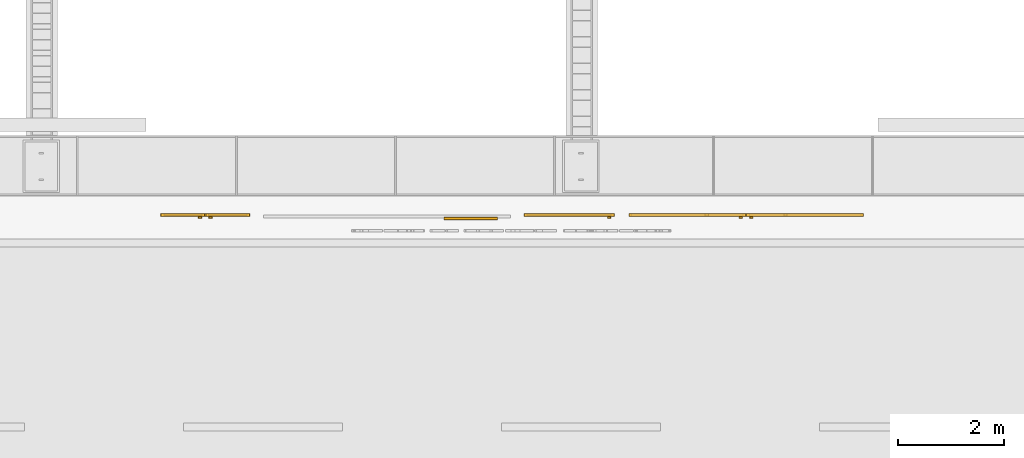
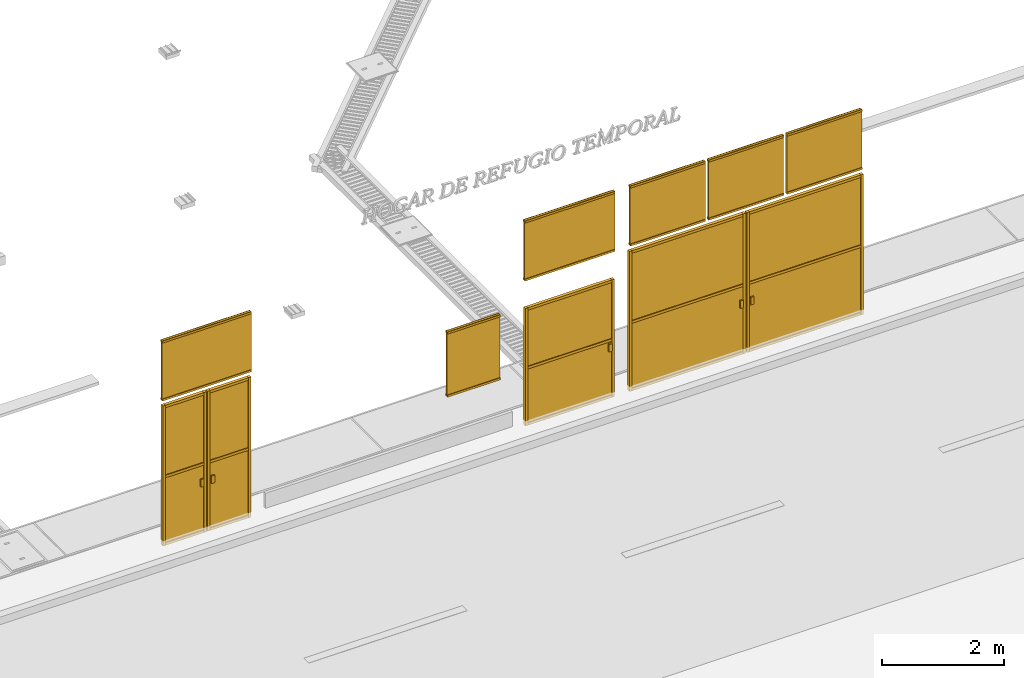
# One storey, part 26 of 90: 35 doors, 18 windows.
"""IFC2X3 building model written with IfcOpenShell, lengths in metres."""

from ifc_helpers import new_model, si_unit, origin, origin_with_axes, place, context, subcontext, project, spatial, faceted_brep, element, save


model = new_model("IFC2X3")

# Units and contexts
model_context = context("Model", 3, precision=1e-05, world=origin_with_axes())
body_context = subcontext(model_context, "Body", "Model", "MODEL_VIEW")
ifc_project = project(units=[si_unit("LENGTHUNIT", "METRE"), si_unit("AREAUNIT", "SQUARE_METRE"), si_unit("VOLUMEUNIT", "CUBIC_METRE"), si_unit("PLANEANGLEUNIT", "RADIAN")], contexts=[model_context])

# Site, building, storey
site_placement = place(None, origin_with_axes())
site = spatial("IfcSite", under=ifc_project, at=site_placement, Name="Predio Los Mangos - Morales, San Martín", CompositionType="ELEMENT")
building_placement = place(site_placement, origin())
building = spatial("IfcBuilding", under=site, at=building_placement, Name="Hogar de Refugio Temporal", CompositionType="ELEMENT")
storey_placement = place(building_placement, origin())
storey = spatial("IfcBuildingStorey", under=building, at=storey_placement, Name="NIVEL 1 (NPT +0.00)", CompositionType="ELEMENT", Elevation=0.0)

# Doors
door_1_placement = place(storey_placement, origin())
element("IfcDoor", 1, at=door_1_placement, inside=storey, Name="oe01_porton_peatonal_plancha", ObjectType="Puerta / portón", context=body_context, shape_type="Brep", body=[
    faceted_brep([(31.621, 16.285, 0.09), (31.621, 16.315, 0.09), (32.364, 16.315, 0.09), (32.364, 16.285, 0.09), (31.621, 16.285, 2.81), (32.364, 16.285, 2.81), (32.364, 16.315, 2.81), (31.621, 16.315, 2.81)], [[[0, 1, 2, 3]], [[4, 5, 6, 7]], [[0, 3, 5, 4]], [[3, 2, 6, 5]], [[2, 1, 7, 6]], [[1, 0, 4, 7]]]),
])
door_2_placement = place(storey_placement, origin())
element("IfcDoor", 2, at=door_2_placement, inside=storey, Name="oe01_porton_peatonal_m", ObjectType="Puerta / portón", context=body_context, shape_type="Brep", body=[
    faceted_brep([(31.581, 16.27, 0.05), (31.581, 16.33, 0.05), (32.404, 16.33, 0.05), (32.404, 16.27, 0.05), (31.581, 16.27, 0.1), (32.404, 16.27, 0.1), (32.404, 16.33, 0.1), (31.581, 16.33, 0.1)], [[[0, 1, 2, 3]], [[4, 5, 6, 7]], [[0, 3, 5, 4]], [[3, 2, 6, 5]], [[2, 1, 7, 6]], [[1, 0, 4, 7]]]),
])
door_3_placement = place(storey_placement, origin())
element("IfcDoor", 3, at=door_3_placement, inside=storey, Name="oe01_porton_peatonal_m", ObjectType="Puerta / portón", context=body_context, shape_type="Brep", body=[
    faceted_brep([(31.581, 16.27, 2.8), (31.581, 16.33, 2.8), (32.404, 16.33, 2.8), (32.404, 16.27, 2.8), (31.581, 16.27, 2.85), (32.404, 16.27, 2.85), (32.404, 16.33, 2.85), (31.581, 16.33, 2.85)], [[[0, 1, 2, 3]], [[4, 5, 6, 7]], [[0, 3, 5, 4]], [[3, 2, 6, 5]], [[2, 1, 7, 6]], [[1, 0, 4, 7]]]),
])
door_4_placement = place(storey_placement, origin())
element("IfcDoor", 4, at=door_4_placement, inside=storey, Name="oe01_porton_peatonal_m", ObjectType="Puerta / portón", context=body_context, shape_type="Brep", body=[
    faceted_brep([(31.581, 16.27, 0.05), (31.581, 16.33, 0.05), (31.631, 16.33, 0.05), (31.631, 16.27, 0.05), (31.581, 16.27, 2.85), (31.631, 16.27, 2.85), (31.631, 16.33, 2.85), (31.581, 16.33, 2.85)], [[[0, 1, 2, 3]], [[4, 5, 6, 7]], [[0, 3, 5, 4]], [[3, 2, 6, 5]], [[2, 1, 7, 6]], [[1, 0, 4, 7]]]),
])
door_5_placement = place(storey_placement, origin())
element("IfcDoor", 5, at=door_5_placement, inside=storey, Name="oe01_porton_peatonal_m", ObjectType="Puerta / portón", context=body_context, shape_type="Brep", body=[
    faceted_brep([(32.354, 16.27, 0.05), (32.354, 16.33, 0.05), (32.404, 16.33, 0.05), (32.404, 16.27, 0.05), (32.354, 16.27, 2.85), (32.404, 16.27, 2.85), (32.404, 16.33, 2.85), (32.354, 16.33, 2.85)], [[[0, 1, 2, 3]], [[4, 5, 6, 7]], [[0, 3, 5, 4]], [[3, 2, 6, 5]], [[2, 1, 7, 6]], [[1, 0, 4, 7]]]),
])
door_6_placement = place(storey_placement, origin())
element("IfcDoor", 6, at=door_6_placement, inside=storey, Name="oe01_porton_peatonal_m", ObjectType="Puerta / portón", context=body_context, shape_type="Brep", body=[
    faceted_brep([(31.581, 16.27, 1.4), (31.581, 16.33, 1.4), (32.404, 16.33, 1.4), (32.404, 16.27, 1.4), (31.581, 16.27, 1.45), (32.404, 16.27, 1.45), (32.404, 16.33, 1.45), (31.581, 16.33, 1.45)], [[[0, 1, 2, 3]], [[4, 5, 6, 7]], [[0, 3, 5, 4]], [[3, 2, 6, 5]], [[2, 1, 7, 6]], [[1, 0, 4, 7]]]),
])
door_7_placement = place(storey_placement, origin())
element("IfcDoor", 7, at=door_7_placement, inside=storey, Name="oe01_porton_peatonal_manija", ObjectType="Puerta / portón", context=body_context, shape_type="Brep", body=[
    faceted_brep([(32.284, 16.24, 1.0), (32.284, 16.27, 1.0), (32.344, 16.27, 1.0), (32.344, 16.24, 1.0), (32.284, 16.24, 1.15), (32.344, 16.24, 1.15), (32.344, 16.27, 1.15), (32.284, 16.27, 1.15)], [[[0, 1, 2, 3]], [[4, 5, 6, 7]], [[0, 3, 5, 4]], [[3, 2, 6, 5]], [[2, 1, 7, 6]], [[1, 0, 4, 7]]]),
])
door_8_placement = place(storey_placement, origin())
element("IfcDoor", 8, at=door_8_placement, inside=storey, Name="oe01_porton_peatonal_plancha", ObjectType="Puerta / portón", context=body_context, shape_type="Brep", body=[
    faceted_brep([(32.464, 16.285, 0.09), (32.464, 16.315, 0.09), (33.2071, 16.315, 0.09), (33.2071, 16.285, 0.09), (32.464, 16.285, 2.81), (33.2071, 16.285, 2.81), (33.2071, 16.315, 2.81), (32.464, 16.315, 2.81)], [[[0, 1, 2, 3]], [[4, 5, 6, 7]], [[0, 3, 5, 4]], [[3, 2, 6, 5]], [[2, 1, 7, 6]], [[1, 0, 4, 7]]]),
])
door_9_placement = place(storey_placement, origin())
element("IfcDoor", 9, at=door_9_placement, inside=storey, Name="oe01_porton_peatonal_m", ObjectType="Puerta / portón", context=body_context, shape_type="Brep", body=[
    faceted_brep([(32.424, 16.27, 0.05), (32.424, 16.33, 0.05), (33.2471, 16.33, 0.05), (33.2471, 16.27, 0.05), (32.424, 16.27, 0.1), (33.2471, 16.27, 0.1), (33.2471, 16.33, 0.1), (32.424, 16.33, 0.1)], [[[0, 1, 2, 3]], [[4, 5, 6, 7]], [[0, 3, 5, 4]], [[3, 2, 6, 5]], [[2, 1, 7, 6]], [[1, 0, 4, 7]]]),
])
door_10_placement = place(storey_placement, origin())
element("IfcDoor", 10, at=door_10_placement, inside=storey, Name="oe01_porton_peatonal_m", ObjectType="Puerta / portón", context=body_context, shape_type="Brep", body=[
    faceted_brep([(32.424, 16.27, 2.8), (32.424, 16.33, 2.8), (33.2471, 16.33, 2.8), (33.2471, 16.27, 2.8), (32.424, 16.27, 2.85), (33.2471, 16.27, 2.85), (33.2471, 16.33, 2.85), (32.424, 16.33, 2.85)], [[[0, 1, 2, 3]], [[4, 5, 6, 7]], [[0, 3, 5, 4]], [[3, 2, 6, 5]], [[2, 1, 7, 6]], [[1, 0, 4, 7]]]),
])
door_11_placement = place(storey_placement, origin())
element("IfcDoor", 11, at=door_11_placement, inside=storey, Name="oe01_porton_peatonal_m", ObjectType="Puerta / portón", context=body_context, shape_type="Brep", body=[
    faceted_brep([(32.424, 16.27, 0.05), (32.424, 16.33, 0.05), (32.474, 16.33, 0.05), (32.474, 16.27, 0.05), (32.424, 16.27, 2.85), (32.474, 16.27, 2.85), (32.474, 16.33, 2.85), (32.424, 16.33, 2.85)], [[[0, 1, 2, 3]], [[4, 5, 6, 7]], [[0, 3, 5, 4]], [[3, 2, 6, 5]], [[2, 1, 7, 6]], [[1, 0, 4, 7]]]),
])
door_12_placement = place(storey_placement, origin())
element("IfcDoor", 12, at=door_12_placement, inside=storey, Name="oe01_porton_peatonal_m", ObjectType="Puerta / portón", context=body_context, shape_type="Brep", body=[
    faceted_brep([(33.1971, 16.27, 0.05), (33.1971, 16.33, 0.05), (33.2471, 16.33, 0.05), (33.2471, 16.27, 0.05), (33.1971, 16.27, 2.85), (33.2471, 16.27, 2.85), (33.2471, 16.33, 2.85), (33.1971, 16.33, 2.85)], [[[0, 1, 2, 3]], [[4, 5, 6, 7]], [[0, 3, 5, 4]], [[3, 2, 6, 5]], [[2, 1, 7, 6]], [[1, 0, 4, 7]]]),
])
door_13_placement = place(storey_placement, origin())
element("IfcDoor", 13, at=door_13_placement, inside=storey, Name="oe01_porton_peatonal_m", ObjectType="Puerta / portón", context=body_context, shape_type="Brep", body=[
    faceted_brep([(32.424, 16.27, 1.4), (32.424, 16.33, 1.4), (33.2471, 16.33, 1.4), (33.2471, 16.27, 1.4), (32.424, 16.27, 1.45), (33.2471, 16.27, 1.45), (33.2471, 16.33, 1.45), (32.424, 16.33, 1.45)], [[[0, 1, 2, 3]], [[4, 5, 6, 7]], [[0, 3, 5, 4]], [[3, 2, 6, 5]], [[2, 1, 7, 6]], [[1, 0, 4, 7]]]),
])
door_14_placement = place(storey_placement, origin())
element("IfcDoor", 14, at=door_14_placement, inside=storey, Name="oe01_porton_peatonal_manija", ObjectType="Puerta / portón", context=body_context, shape_type="Brep", body=[
    faceted_brep([(32.484, 16.24, 1.0), (32.484, 16.27, 1.0), (32.544, 16.27, 1.0), (32.544, 16.24, 1.0), (32.484, 16.24, 1.15), (32.544, 16.24, 1.15), (32.544, 16.27, 1.15), (32.484, 16.27, 1.15)], [[[0, 1, 2, 3]], [[4, 5, 6, 7]], [[0, 3, 5, 4]], [[3, 2, 6, 5]], [[2, 1, 7, 6]], [[1, 0, 4, 7]]]),
])

# Windows
window_1_placement = place(storey_placement, origin())
element("IfcWindow", 15, at=window_1_placement, inside=storey, Name="oe01_celosia1", ObjectType="Ventana / paño metálico", context=body_context, shape_type="Brep", body=[
    faceted_brep([(31.571, 16.28, 2.95), (31.571, 16.32, 2.95), (33.2571, 16.32, 2.95), (33.2571, 16.28, 2.95), (31.571, 16.28, 4.15), (33.2571, 16.28, 4.15), (33.2571, 16.32, 4.15), (31.571, 16.32, 4.15)], [[[0, 1, 2, 3]], [[4, 5, 6, 7]], [[0, 3, 5, 4]], [[3, 2, 6, 5]], [[2, 1, 7, 6]], [[1, 0, 4, 7]]]),
])
window_2_placement = place(storey_placement, origin())
element("IfcWindow", 16, at=window_2_placement, inside=storey, Name="oe01_celosia1_marco", ObjectType="Ventana / paño metálico", context=body_context, shape_type="Brep", body=[
    faceted_brep([(31.571, 16.27, 2.95), (31.571, 16.33, 2.95), (33.2571, 16.33, 2.95), (33.2571, 16.27, 2.95), (31.571, 16.27, 2.99), (33.2571, 16.27, 2.99), (33.2571, 16.33, 2.99), (31.571, 16.33, 2.99)], [[[0, 1, 2, 3]], [[4, 5, 6, 7]], [[0, 3, 5, 4]], [[3, 2, 6, 5]], [[2, 1, 7, 6]], [[1, 0, 4, 7]]]),
])
window_3_placement = place(storey_placement, origin())
element("IfcWindow", 17, at=window_3_placement, inside=storey, Name="oe01_celosia1_marco", ObjectType="Ventana / paño metálico", context=body_context, shape_type="Brep", body=[
    faceted_brep([(31.571, 16.27, 4.11), (31.571, 16.33, 4.11), (33.2571, 16.33, 4.11), (33.2571, 16.27, 4.11), (31.571, 16.27, 4.15), (33.2571, 16.27, 4.15), (33.2571, 16.33, 4.15), (31.571, 16.33, 4.15)], [[[0, 1, 2, 3]], [[4, 5, 6, 7]], [[0, 3, 5, 4]], [[3, 2, 6, 5]], [[2, 1, 7, 6]], [[1, 0, 4, 7]]]),
])
window_4_placement = place(storey_placement, origin())
element("IfcWindow", 18, at=window_4_placement, inside=storey, Name="oe01_ventana", ObjectType="Ventana / paño metálico", context=body_context, shape_type="Brep", body=[
    faceted_brep([(36.9204, 16.21, 1.2), (36.9204, 16.25, 1.2), (37.924, 16.25, 1.2), (37.924, 16.21, 1.2), (36.9204, 16.21, 2.5), (37.924, 16.21, 2.5), (37.924, 16.25, 2.5), (36.9204, 16.25, 2.5)], [[[0, 1, 2, 3]], [[4, 5, 6, 7]], [[0, 3, 5, 4]], [[3, 2, 6, 5]], [[2, 1, 7, 6]], [[1, 0, 4, 7]]]),
])
window_5_placement = place(storey_placement, origin())
element("IfcWindow", 19, at=window_5_placement, inside=storey, Name="oe01_ventana_marco", ObjectType="Ventana / paño metálico", context=body_context, shape_type="Brep", body=[
    faceted_brep([(36.9204, 16.2, 1.2), (36.9204, 16.26, 1.2), (37.924, 16.26, 1.2), (37.924, 16.2, 1.2), (36.9204, 16.2, 1.24), (37.924, 16.2, 1.24), (37.924, 16.26, 1.24), (36.9204, 16.26, 1.24)], [[[0, 1, 2, 3]], [[4, 5, 6, 7]], [[0, 3, 5, 4]], [[3, 2, 6, 5]], [[2, 1, 7, 6]], [[1, 0, 4, 7]]]),
])
window_6_placement = place(storey_placement, origin())
element("IfcWindow", 20, at=window_6_placement, inside=storey, Name="oe01_ventana_marco", ObjectType="Ventana / paño metálico", context=body_context, shape_type="Brep", body=[
    faceted_brep([(36.9204, 16.2, 2.46), (36.9204, 16.26, 2.46), (37.924, 16.26, 2.46), (37.924, 16.2, 2.46), (36.9204, 16.2, 2.5), (37.924, 16.2, 2.5), (37.924, 16.26, 2.5), (36.9204, 16.26, 2.5)], [[[0, 1, 2, 3]], [[4, 5, 6, 7]], [[0, 3, 5, 4]], [[3, 2, 6, 5]], [[2, 1, 7, 6]], [[1, 0, 4, 7]]]),
])

# Doors
door_15_placement = place(storey_placement, origin())
element("IfcDoor", 21, at=door_15_placement, inside=storey, Name="oe01_puerta_plancha", ObjectType="Puerta / portón", context=body_context, shape_type="Brep", body=[
    faceted_brep([(38.4758, 16.285, 0.09), (38.4758, 16.315, 0.09), (40.082, 16.315, 0.09), (40.082, 16.285, 0.09), (38.4758, 16.285, 2.36), (40.082, 16.285, 2.36), (40.082, 16.315, 2.36), (38.4758, 16.315, 2.36)], [[[0, 1, 2, 3]], [[4, 5, 6, 7]], [[0, 3, 5, 4]], [[3, 2, 6, 5]], [[2, 1, 7, 6]], [[1, 0, 4, 7]]]),
])
door_16_placement = place(storey_placement, origin())
element("IfcDoor", 22, at=door_16_placement, inside=storey, Name="oe01_puerta_m", ObjectType="Puerta / portón", context=body_context, shape_type="Brep", body=[
    faceted_brep([(38.4358, 16.27, 0.05), (38.4358, 16.33, 0.05), (40.122, 16.33, 0.05), (40.122, 16.27, 0.05), (38.4358, 16.27, 0.1), (40.122, 16.27, 0.1), (40.122, 16.33, 0.1), (38.4358, 16.33, 0.1)], [[[0, 1, 2, 3]], [[4, 5, 6, 7]], [[0, 3, 5, 4]], [[3, 2, 6, 5]], [[2, 1, 7, 6]], [[1, 0, 4, 7]]]),
])
door_17_placement = place(storey_placement, origin())
element("IfcDoor", 23, at=door_17_placement, inside=storey, Name="oe01_puerta_m", ObjectType="Puerta / portón", context=body_context, shape_type="Brep", body=[
    faceted_brep([(38.4358, 16.27, 2.35), (38.4358, 16.33, 2.35), (40.122, 16.33, 2.35), (40.122, 16.27, 2.35), (38.4358, 16.27, 2.4), (40.122, 16.27, 2.4), (40.122, 16.33, 2.4), (38.4358, 16.33, 2.4)], [[[0, 1, 2, 3]], [[4, 5, 6, 7]], [[0, 3, 5, 4]], [[3, 2, 6, 5]], [[2, 1, 7, 6]], [[1, 0, 4, 7]]]),
])
door_18_placement = place(storey_placement, origin())
element("IfcDoor", 24, at=door_18_placement, inside=storey, Name="oe01_puerta_m", ObjectType="Puerta / portón", context=body_context, shape_type="Brep", body=[
    faceted_brep([(38.4358, 16.27, 0.05), (38.4358, 16.33, 0.05), (38.4858, 16.33, 0.05), (38.4858, 16.27, 0.05), (38.4358, 16.27, 2.4), (38.4858, 16.27, 2.4), (38.4858, 16.33, 2.4), (38.4358, 16.33, 2.4)], [[[0, 1, 2, 3]], [[4, 5, 6, 7]], [[0, 3, 5, 4]], [[3, 2, 6, 5]], [[2, 1, 7, 6]], [[1, 0, 4, 7]]]),
])
door_19_placement = place(storey_placement, origin())
element("IfcDoor", 25, at=door_19_placement, inside=storey, Name="oe01_puerta_m", ObjectType="Puerta / portón", context=body_context, shape_type="Brep", body=[
    faceted_brep([(40.072, 16.27, 0.05), (40.072, 16.33, 0.05), (40.122, 16.33, 0.05), (40.122, 16.27, 0.05), (40.072, 16.27, 2.4), (40.122, 16.27, 2.4), (40.122, 16.33, 2.4), (40.072, 16.33, 2.4)], [[[0, 1, 2, 3]], [[4, 5, 6, 7]], [[0, 3, 5, 4]], [[3, 2, 6, 5]], [[2, 1, 7, 6]], [[1, 0, 4, 7]]]),
])
door_20_placement = place(storey_placement, origin())
element("IfcDoor", 26, at=door_20_placement, inside=storey, Name="oe01_puerta_m", ObjectType="Puerta / portón", context=body_context, shape_type="Brep", body=[
    faceted_brep([(38.4358, 16.27, 1.175), (38.4358, 16.33, 1.175), (40.122, 16.33, 1.175), (40.122, 16.27, 1.175), (38.4358, 16.27, 1.225), (40.122, 16.27, 1.225), (40.122, 16.33, 1.225), (38.4358, 16.33, 1.225)], [[[0, 1, 2, 3]], [[4, 5, 6, 7]], [[0, 3, 5, 4]], [[3, 2, 6, 5]], [[2, 1, 7, 6]], [[1, 0, 4, 7]]]),
])
door_21_placement = place(storey_placement, origin())
element("IfcDoor", 27, at=door_21_placement, inside=storey, Name="oe01_puerta_manija", ObjectType="Puerta / portón", context=body_context, shape_type="Brep", body=[
    faceted_brep([(40.002, 16.24, 1.0), (40.002, 16.27, 1.0), (40.062, 16.27, 1.0), (40.062, 16.24, 1.0), (40.002, 16.24, 1.15), (40.062, 16.24, 1.15), (40.062, 16.27, 1.15), (40.002, 16.27, 1.15)], [[[0, 1, 2, 3]], [[4, 5, 6, 7]], [[0, 3, 5, 4]], [[3, 2, 6, 5]], [[2, 1, 7, 6]], [[1, 0, 4, 7]]]),
])

# Windows
window_7_placement = place(storey_placement, origin())
element("IfcWindow", 28, at=window_7_placement, inside=storey, Name="oe01_celosia3", ObjectType="Ventana / paño metálico", context=body_context, shape_type="Brep", body=[
    faceted_brep([(38.4258, 16.28, 2.95), (38.4258, 16.32, 2.95), (40.132, 16.32, 2.95), (40.132, 16.28, 2.95), (38.4258, 16.28, 4.15), (40.132, 16.28, 4.15), (40.132, 16.32, 4.15), (38.4258, 16.32, 4.15)], [[[0, 1, 2, 3]], [[4, 5, 6, 7]], [[0, 3, 5, 4]], [[3, 2, 6, 5]], [[2, 1, 7, 6]], [[1, 0, 4, 7]]]),
])
window_8_placement = place(storey_placement, origin())
element("IfcWindow", 29, at=window_8_placement, inside=storey, Name="oe01_celosia3_marco", ObjectType="Ventana / paño metálico", context=body_context, shape_type="Brep", body=[
    faceted_brep([(38.4258, 16.27, 2.95), (38.4258, 16.33, 2.95), (40.132, 16.33, 2.95), (40.132, 16.27, 2.95), (38.4258, 16.27, 2.99), (40.132, 16.27, 2.99), (40.132, 16.33, 2.99), (38.4258, 16.33, 2.99)], [[[0, 1, 2, 3]], [[4, 5, 6, 7]], [[0, 3, 5, 4]], [[3, 2, 6, 5]], [[2, 1, 7, 6]], [[1, 0, 4, 7]]]),
])
window_9_placement = place(storey_placement, origin())
element("IfcWindow", 30, at=window_9_placement, inside=storey, Name="oe01_celosia3_marco", ObjectType="Ventana / paño metálico", context=body_context, shape_type="Brep", body=[
    faceted_brep([(38.4258, 16.27, 4.11), (38.4258, 16.33, 4.11), (40.132, 16.33, 4.11), (40.132, 16.27, 4.11), (38.4258, 16.27, 4.15), (40.132, 16.27, 4.15), (40.132, 16.33, 4.15), (38.4258, 16.33, 4.15)], [[[0, 1, 2, 3]], [[4, 5, 6, 7]], [[0, 3, 5, 4]], [[3, 2, 6, 5]], [[2, 1, 7, 6]], [[1, 0, 4, 7]]]),
])

# Doors
door_22_placement = place(storey_placement, origin())
element("IfcDoor", 31, at=door_22_placement, inside=storey, Name="oe01_porton_vehicular_plancha", ObjectType="Puerta / portón", context=body_context, shape_type="Brep", body=[
    faceted_brep([(40.4429, 16.285, 0.09), (40.4429, 16.315, 0.09), (42.566, 16.315, 0.09), (42.566, 16.285, 0.09), (40.4429, 16.285, 2.81), (42.566, 16.285, 2.81), (42.566, 16.315, 2.81), (40.4429, 16.315, 2.81)], [[[0, 1, 2, 3]], [[4, 5, 6, 7]], [[0, 3, 5, 4]], [[3, 2, 6, 5]], [[2, 1, 7, 6]], [[1, 0, 4, 7]]]),
])
door_23_placement = place(storey_placement, origin())
element("IfcDoor", 32, at=door_23_placement, inside=storey, Name="oe01_porton_vehicular_m", ObjectType="Puerta / portón", context=body_context, shape_type="Brep", body=[
    faceted_brep([(40.4029, 16.27, 0.05), (40.4029, 16.33, 0.05), (42.606, 16.33, 0.05), (42.606, 16.27, 0.05), (40.4029, 16.27, 0.1), (42.606, 16.27, 0.1), (42.606, 16.33, 0.1), (40.4029, 16.33, 0.1)], [[[0, 1, 2, 3]], [[4, 5, 6, 7]], [[0, 3, 5, 4]], [[3, 2, 6, 5]], [[2, 1, 7, 6]], [[1, 0, 4, 7]]]),
])
door_24_placement = place(storey_placement, origin())
element("IfcDoor", 33, at=door_24_placement, inside=storey, Name="oe01_porton_vehicular_m", ObjectType="Puerta / portón", context=body_context, shape_type="Brep", body=[
    faceted_brep([(40.4029, 16.27, 2.8), (40.4029, 16.33, 2.8), (42.606, 16.33, 2.8), (42.606, 16.27, 2.8), (40.4029, 16.27, 2.85), (42.606, 16.27, 2.85), (42.606, 16.33, 2.85), (40.4029, 16.33, 2.85)], [[[0, 1, 2, 3]], [[4, 5, 6, 7]], [[0, 3, 5, 4]], [[3, 2, 6, 5]], [[2, 1, 7, 6]], [[1, 0, 4, 7]]]),
])
door_25_placement = place(storey_placement, origin())
element("IfcDoor", 34, at=door_25_placement, inside=storey, Name="oe01_porton_vehicular_m", ObjectType="Puerta / portón", context=body_context, shape_type="Brep", body=[
    faceted_brep([(40.4029, 16.27, 0.05), (40.4029, 16.33, 0.05), (40.4529, 16.33, 0.05), (40.4529, 16.27, 0.05), (40.4029, 16.27, 2.85), (40.4529, 16.27, 2.85), (40.4529, 16.33, 2.85), (40.4029, 16.33, 2.85)], [[[0, 1, 2, 3]], [[4, 5, 6, 7]], [[0, 3, 5, 4]], [[3, 2, 6, 5]], [[2, 1, 7, 6]], [[1, 0, 4, 7]]]),
])
door_26_placement = place(storey_placement, origin())
element("IfcDoor", 35, at=door_26_placement, inside=storey, Name="oe01_porton_vehicular_m", ObjectType="Puerta / portón", context=body_context, shape_type="Brep", body=[
    faceted_brep([(42.556, 16.27, 0.05), (42.556, 16.33, 0.05), (42.606, 16.33, 0.05), (42.606, 16.27, 0.05), (42.556, 16.27, 2.85), (42.606, 16.27, 2.85), (42.606, 16.33, 2.85), (42.556, 16.33, 2.85)], [[[0, 1, 2, 3]], [[4, 5, 6, 7]], [[0, 3, 5, 4]], [[3, 2, 6, 5]], [[2, 1, 7, 6]], [[1, 0, 4, 7]]]),
])
door_27_placement = place(storey_placement, origin())
element("IfcDoor", 36, at=door_27_placement, inside=storey, Name="oe01_porton_vehicular_m", ObjectType="Puerta / portón", context=body_context, shape_type="Brep", body=[
    faceted_brep([(40.4029, 16.27, 1.4), (40.4029, 16.33, 1.4), (42.606, 16.33, 1.4), (42.606, 16.27, 1.4), (40.4029, 16.27, 1.45), (42.606, 16.27, 1.45), (42.606, 16.33, 1.45), (40.4029, 16.33, 1.45)], [[[0, 1, 2, 3]], [[4, 5, 6, 7]], [[0, 3, 5, 4]], [[3, 2, 6, 5]], [[2, 1, 7, 6]], [[1, 0, 4, 7]]]),
])
door_28_placement = place(storey_placement, origin())
element("IfcDoor", 37, at=door_28_placement, inside=storey, Name="oe01_porton_vehicular_manija", ObjectType="Puerta / portón", context=body_context, shape_type="Brep", body=[
    faceted_brep([(42.486, 16.24, 1.0), (42.486, 16.27, 1.0), (42.546, 16.27, 1.0), (42.546, 16.24, 1.0), (42.486, 16.24, 1.15), (42.546, 16.24, 1.15), (42.546, 16.27, 1.15), (42.486, 16.27, 1.15)], [[[0, 1, 2, 3]], [[4, 5, 6, 7]], [[0, 3, 5, 4]], [[3, 2, 6, 5]], [[2, 1, 7, 6]], [[1, 0, 4, 7]]]),
])
door_29_placement = place(storey_placement, origin())
element("IfcDoor", 38, at=door_29_placement, inside=storey, Name="oe01_porton_vehicular_plancha", ObjectType="Puerta / portón", context=body_context, shape_type="Brep", body=[
    faceted_brep([(42.666, 16.285, 0.09), (42.666, 16.315, 0.09), (44.7891, 16.315, 0.09), (44.7891, 16.285, 0.09), (42.666, 16.285, 2.81), (44.7891, 16.285, 2.81), (44.7891, 16.315, 2.81), (42.666, 16.315, 2.81)], [[[0, 1, 2, 3]], [[4, 5, 6, 7]], [[0, 3, 5, 4]], [[3, 2, 6, 5]], [[2, 1, 7, 6]], [[1, 0, 4, 7]]]),
])
door_30_placement = place(storey_placement, origin())
element("IfcDoor", 39, at=door_30_placement, inside=storey, Name="oe01_porton_vehicular_m", ObjectType="Puerta / portón", context=body_context, shape_type="Brep", body=[
    faceted_brep([(42.626, 16.27, 0.05), (42.626, 16.33, 0.05), (44.8291, 16.33, 0.05), (44.8291, 16.27, 0.05), (42.626, 16.27, 0.1), (44.8291, 16.27, 0.1), (44.8291, 16.33, 0.1), (42.626, 16.33, 0.1)], [[[0, 1, 2, 3]], [[4, 5, 6, 7]], [[0, 3, 5, 4]], [[3, 2, 6, 5]], [[2, 1, 7, 6]], [[1, 0, 4, 7]]]),
])
door_31_placement = place(storey_placement, origin())
element("IfcDoor", 40, at=door_31_placement, inside=storey, Name="oe01_porton_vehicular_m", ObjectType="Puerta / portón", context=body_context, shape_type="Brep", body=[
    faceted_brep([(42.626, 16.27, 2.8), (42.626, 16.33, 2.8), (44.8291, 16.33, 2.8), (44.8291, 16.27, 2.8), (42.626, 16.27, 2.85), (44.8291, 16.27, 2.85), (44.8291, 16.33, 2.85), (42.626, 16.33, 2.85)], [[[0, 1, 2, 3]], [[4, 5, 6, 7]], [[0, 3, 5, 4]], [[3, 2, 6, 5]], [[2, 1, 7, 6]], [[1, 0, 4, 7]]]),
])
door_32_placement = place(storey_placement, origin())
element("IfcDoor", 41, at=door_32_placement, inside=storey, Name="oe01_porton_vehicular_m", ObjectType="Puerta / portón", context=body_context, shape_type="Brep", body=[
    faceted_brep([(42.626, 16.27, 0.05), (42.626, 16.33, 0.05), (42.676, 16.33, 0.05), (42.676, 16.27, 0.05), (42.626, 16.27, 2.85), (42.676, 16.27, 2.85), (42.676, 16.33, 2.85), (42.626, 16.33, 2.85)], [[[0, 1, 2, 3]], [[4, 5, 6, 7]], [[0, 3, 5, 4]], [[3, 2, 6, 5]], [[2, 1, 7, 6]], [[1, 0, 4, 7]]]),
])
door_33_placement = place(storey_placement, origin())
element("IfcDoor", 42, at=door_33_placement, inside=storey, Name="oe01_porton_vehicular_m", ObjectType="Puerta / portón", context=body_context, shape_type="Brep", body=[
    faceted_brep([(44.7791, 16.27, 0.05), (44.7791, 16.33, 0.05), (44.8291, 16.33, 0.05), (44.8291, 16.27, 0.05), (44.7791, 16.27, 2.85), (44.8291, 16.27, 2.85), (44.8291, 16.33, 2.85), (44.7791, 16.33, 2.85)], [[[0, 1, 2, 3]], [[4, 5, 6, 7]], [[0, 3, 5, 4]], [[3, 2, 6, 5]], [[2, 1, 7, 6]], [[1, 0, 4, 7]]]),
])
door_34_placement = place(storey_placement, origin())
element("IfcDoor", 43, at=door_34_placement, inside=storey, Name="oe01_porton_vehicular_m", ObjectType="Puerta / portón", context=body_context, shape_type="Brep", body=[
    faceted_brep([(42.626, 16.27, 1.4), (42.626, 16.33, 1.4), (44.8291, 16.33, 1.4), (44.8291, 16.27, 1.4), (42.626, 16.27, 1.45), (44.8291, 16.27, 1.45), (44.8291, 16.33, 1.45), (42.626, 16.33, 1.45)], [[[0, 1, 2, 3]], [[4, 5, 6, 7]], [[0, 3, 5, 4]], [[3, 2, 6, 5]], [[2, 1, 7, 6]], [[1, 0, 4, 7]]]),
])
door_35_placement = place(storey_placement, origin())
element("IfcDoor", 44, at=door_35_placement, inside=storey, Name="oe01_porton_vehicular_manija", ObjectType="Puerta / portón", context=body_context, shape_type="Brep", body=[
    faceted_brep([(42.686, 16.24, 1.0), (42.686, 16.27, 1.0), (42.746, 16.27, 1.0), (42.746, 16.24, 1.0), (42.686, 16.24, 1.15), (42.746, 16.24, 1.15), (42.746, 16.27, 1.15), (42.686, 16.27, 1.15)], [[[0, 1, 2, 3]], [[4, 5, 6, 7]], [[0, 3, 5, 4]], [[3, 2, 6, 5]], [[2, 1, 7, 6]], [[1, 0, 4, 7]]]),
])

# Windows
window_10_placement = place(storey_placement, origin())
element("IfcWindow", 45, at=window_10_placement, inside=storey, Name="oe01_celosia4", ObjectType="Ventana / paño metálico", context=body_context, shape_type="Brep", body=[
    faceted_brep([(40.4229, 16.28, 2.95), (40.4229, 16.32, 2.95), (41.845, 16.32, 2.95), (41.845, 16.28, 2.95), (40.4229, 16.28, 4.15), (41.845, 16.28, 4.15), (41.845, 16.32, 4.15), (40.4229, 16.32, 4.15)], [[[0, 1, 2, 3]], [[4, 5, 6, 7]], [[0, 3, 5, 4]], [[3, 2, 6, 5]], [[2, 1, 7, 6]], [[1, 0, 4, 7]]]),
])
window_11_placement = place(storey_placement, origin())
element("IfcWindow", 46, at=window_11_placement, inside=storey, Name="oe01_celosia4_marco", ObjectType="Ventana / paño metálico", context=body_context, shape_type="Brep", body=[
    faceted_brep([(40.4229, 16.27, 2.95), (40.4229, 16.33, 2.95), (41.845, 16.33, 2.95), (41.845, 16.27, 2.95), (40.4229, 16.27, 2.99), (41.845, 16.27, 2.99), (41.845, 16.33, 2.99), (40.4229, 16.33, 2.99)], [[[0, 1, 2, 3]], [[4, 5, 6, 7]], [[0, 3, 5, 4]], [[3, 2, 6, 5]], [[2, 1, 7, 6]], [[1, 0, 4, 7]]]),
])
window_12_placement = place(storey_placement, origin())
element("IfcWindow", 47, at=window_12_placement, inside=storey, Name="oe01_celosia4_marco", ObjectType="Ventana / paño metálico", context=body_context, shape_type="Brep", body=[
    faceted_brep([(40.4229, 16.27, 4.11), (40.4229, 16.33, 4.11), (41.845, 16.33, 4.11), (41.845, 16.27, 4.11), (40.4229, 16.27, 4.15), (41.845, 16.27, 4.15), (41.845, 16.33, 4.15), (40.4229, 16.33, 4.15)], [[[0, 1, 2, 3]], [[4, 5, 6, 7]], [[0, 3, 5, 4]], [[3, 2, 6, 5]], [[2, 1, 7, 6]], [[1, 0, 4, 7]]]),
])
window_13_placement = place(storey_placement, origin())
element("IfcWindow", 48, at=window_13_placement, inside=storey, Name="oe01_celosia4", ObjectType="Ventana / paño metálico", context=body_context, shape_type="Brep", body=[
    faceted_brep([(41.905, 16.28, 2.95), (41.905, 16.32, 2.95), (43.327, 16.32, 2.95), (43.327, 16.28, 2.95), (41.905, 16.28, 4.15), (43.327, 16.28, 4.15), (43.327, 16.32, 4.15), (41.905, 16.32, 4.15)], [[[0, 1, 2, 3]], [[4, 5, 6, 7]], [[0, 3, 5, 4]], [[3, 2, 6, 5]], [[2, 1, 7, 6]], [[1, 0, 4, 7]]]),
])
window_14_placement = place(storey_placement, origin())
element("IfcWindow", 49, at=window_14_placement, inside=storey, Name="oe01_celosia4_marco", ObjectType="Ventana / paño metálico", context=body_context, shape_type="Brep", body=[
    faceted_brep([(41.905, 16.27, 2.95), (41.905, 16.33, 2.95), (43.327, 16.33, 2.95), (43.327, 16.27, 2.95), (41.905, 16.27, 2.99), (43.327, 16.27, 2.99), (43.327, 16.33, 2.99), (41.905, 16.33, 2.99)], [[[0, 1, 2, 3]], [[4, 5, 6, 7]], [[0, 3, 5, 4]], [[3, 2, 6, 5]], [[2, 1, 7, 6]], [[1, 0, 4, 7]]]),
])
window_15_placement = place(storey_placement, origin())
element("IfcWindow", 50, at=window_15_placement, inside=storey, Name="oe01_celosia4_marco", ObjectType="Ventana / paño metálico", context=body_context, shape_type="Brep", body=[
    faceted_brep([(41.905, 16.27, 4.11), (41.905, 16.33, 4.11), (43.327, 16.33, 4.11), (43.327, 16.27, 4.11), (41.905, 16.27, 4.15), (43.327, 16.27, 4.15), (43.327, 16.33, 4.15), (41.905, 16.33, 4.15)], [[[0, 1, 2, 3]], [[4, 5, 6, 7]], [[0, 3, 5, 4]], [[3, 2, 6, 5]], [[2, 1, 7, 6]], [[1, 0, 4, 7]]]),
])
window_16_placement = place(storey_placement, origin())
element("IfcWindow", 51, at=window_16_placement, inside=storey, Name="oe01_celosia4", ObjectType="Ventana / paño metálico", context=body_context, shape_type="Brep", body=[
    faceted_brep([(43.387, 16.28, 2.95), (43.387, 16.32, 2.95), (44.8091, 16.32, 2.95), (44.8091, 16.28, 2.95), (43.387, 16.28, 4.15), (44.8091, 16.28, 4.15), (44.8091, 16.32, 4.15), (43.387, 16.32, 4.15)], [[[0, 1, 2, 3]], [[4, 5, 6, 7]], [[0, 3, 5, 4]], [[3, 2, 6, 5]], [[2, 1, 7, 6]], [[1, 0, 4, 7]]]),
])
window_17_placement = place(storey_placement, origin())
element("IfcWindow", 52, at=window_17_placement, inside=storey, Name="oe01_celosia4_marco", ObjectType="Ventana / paño metálico", context=body_context, shape_type="Brep", body=[
    faceted_brep([(43.387, 16.27, 2.95), (43.387, 16.33, 2.95), (44.8091, 16.33, 2.95), (44.8091, 16.27, 2.95), (43.387, 16.27, 2.99), (44.8091, 16.27, 2.99), (44.8091, 16.33, 2.99), (43.387, 16.33, 2.99)], [[[0, 1, 2, 3]], [[4, 5, 6, 7]], [[0, 3, 5, 4]], [[3, 2, 6, 5]], [[2, 1, 7, 6]], [[1, 0, 4, 7]]]),
])
window_18_placement = place(storey_placement, origin())
element("IfcWindow", 53, at=window_18_placement, inside=storey, Name="oe01_celosia4_marco", ObjectType="Ventana / paño metálico", context=body_context, shape_type="Brep", body=[
    faceted_brep([(43.387, 16.27, 4.11), (43.387, 16.33, 4.11), (44.8091, 16.33, 4.11), (44.8091, 16.27, 4.11), (43.387, 16.27, 4.15), (44.8091, 16.27, 4.15), (44.8091, 16.33, 4.15), (43.387, 16.33, 4.15)], [[[0, 1, 2, 3]], [[4, 5, 6, 7]], [[0, 3, 5, 4]], [[3, 2, 6, 5]], [[2, 1, 7, 6]], [[1, 0, 4, 7]]]),
])

save(model, "model.ifc")
